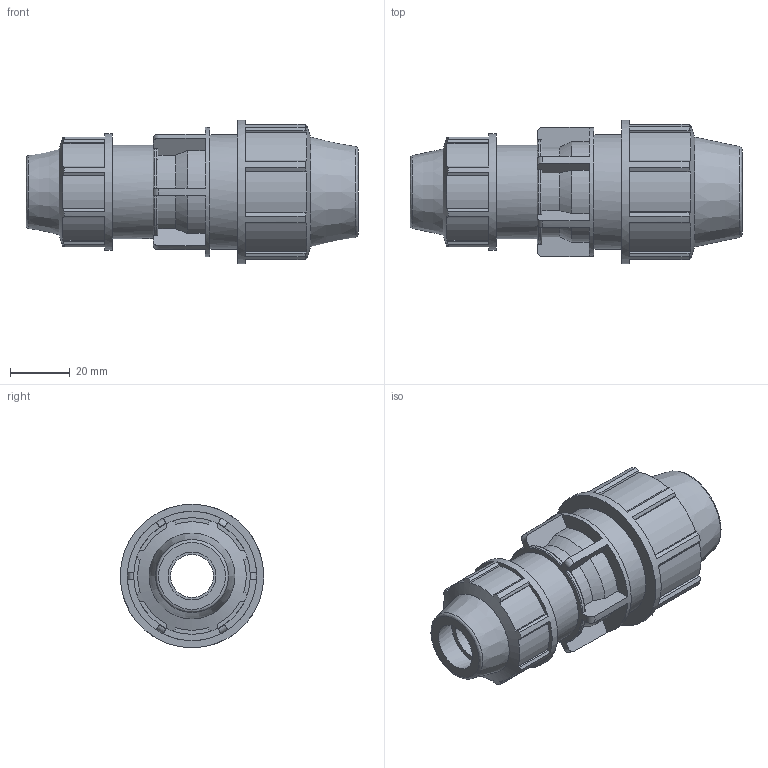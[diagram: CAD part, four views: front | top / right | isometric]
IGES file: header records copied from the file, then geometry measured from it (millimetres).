
Global section: file name: 071100020016_181100020016_0711060200160A.ipt; native system: Autodesk Inventor 2015; preprocessor: unknown; author: KIM; date: 20170606.133320; units: millimetre
Bounding box: 111 x 48 x 48 mm (x, y, z)
Volume: 87685.9 mm3; surface area: 25066.1 mm2
Topology: 1 solids, 1 shells, 189 faces, 553 edges, 374 vertices
Faces by surface type: plane 114, cylinder 45, revolution 20, cone 10
Full cylindrical faces by diameter (mm): 31.2 x1, 38.4 x1, 39 x1, 43.2 x1, 48 x1
